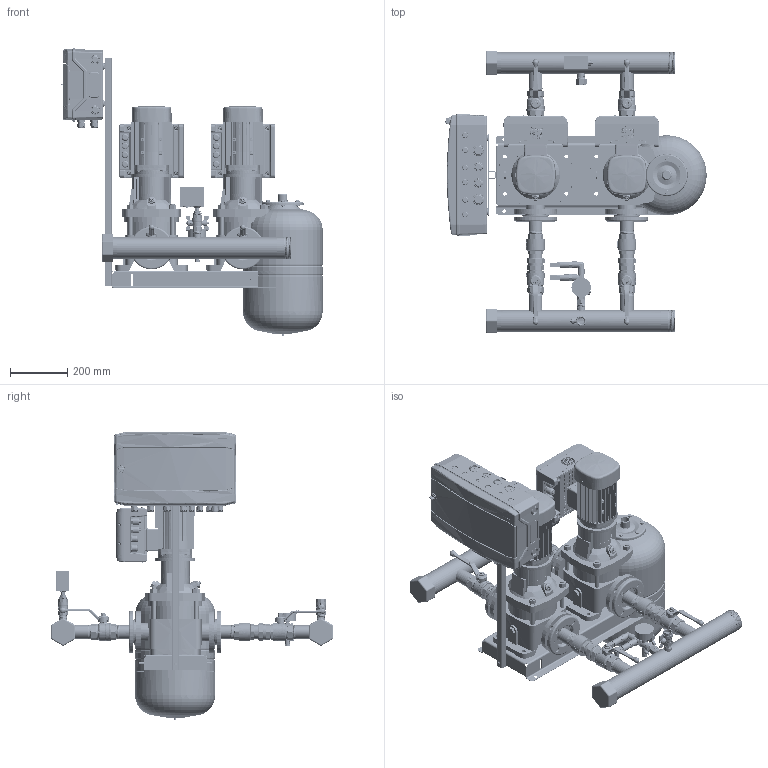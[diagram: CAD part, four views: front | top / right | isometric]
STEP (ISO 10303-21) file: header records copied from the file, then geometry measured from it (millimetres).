
FILE_DESCRIPTION(('CATIA V5 STEP Exchange','CAx-IF Rec.Pracs.--- Model Styling and Organization---1.4--- 2014-01-23','CAx-IF Rec.Pracs.---3D Tessellated Data Validation Properties---0.5---2014-09-14'),'2;1');
FILE_NAME('C:\Users\78432\YandexDisk\Drawings and 3D\3D Hydro Booster\Hydro-ME 3D\Hydro Models\Hydro ME 2 CRV10-xx\Hydro ME 2 CRVE10-2 (DIN).stp','2023-09-20T09:14:26+00:00',('none'),('none'),'CATIA Version 5-6 Release 2019 SP6','CATIA V5 STEP AP242 v1','none');
FILE_SCHEMA(('AP242_MANAGED_MODEL_BASED_3D_ENGINEERING_MIM_LF {1 0 10303 442 1 1 4}'));
Length unit declared in the file: millimetre
Products named in the file (49): Hydro ME 2 CRVE10-2 (DIN); 92051008; CRV10-2 Set (DIN); CRV 10-2_A_DIN_0.75kW; Base; Sleeve; Pumphead; Staybolt.1; Staybolt.2; Staybolt.3; Staybolt.4; Plug; AirVent; Motor; 00id2582; Adapter DN40-1,5" (96619634); 91040268; 91070086; 99110034; Hydraulica NY DN32 1,5 PN16; 92807557_9013-05; DN40_FM_LV_47.303.40; DN40_FF_LV_47.301; SAJ PDH30 0,75-2,2kW; 97941444; 405801; 405816; 91040267; 97941481; 00ID7527; Holder and CP 18mod; 92878909; Control ME (18mod); 2 sensors + manometer cpl.; manometr 16 bar; RPD-I-G1_2; 9021-01; 2070 1/2-1/2; _2020 1/2-1/2; 98594078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
Assembly tree (57 placements, depth 4):
  Hydro ME 2 CRVE10-2 (DIN)
    92051008
    CRV10-2 Set (DIN)  x2
      CRV 10-2_A_DIN_0.75kW
        Base
        Sleeve
        Pumphead
        Staybolt.1
        Staybolt.2
        Staybolt.3
        Staybolt.4
        Plug
        AirVent
        Motor
      00id2582
      Adapter DN40-1,5" (96619634)
        91040268
        91070086
        99110034
      Hydraulica NY DN32 1,5 PN16
      92807557_9013-05
      DN40_FM_LV_47.303.40
      DN40_FF_LV_47.301
      SAJ PDH30 0,75-2,2kW
    97941444  x2
      405801
      405816
      91040267
      97941481
    00ID7527  x2
    Holder and CP 18mod
      92878909
      Control ME (18mod)
    2 sensors + manometer cpl.
      manometr 16 bar
      RPD-I-G1_2  x2
      9021-01
      2070 1/2-1/2
      _2020 1/2-1/2
      98594078
    Tank 24L cpl.
      DN20_FF_BF_47.300.20
      9021-03
    Relay cpl.
      Relay RD-2R
      DN20_FF_BF_47.300.20
      2530 3/4-1/2
      _2530 1/2-1/4
    91078139
  WAV-24(D140 1'')
Bounding box: 916.82 x 989.22 x 1009.9 mm (x, y, z)
Volume: 55757959.6 mm3; surface area: 6383025.7 mm2
Topology: 222 solids, 240 shells, 24109 faces, 70478 edges, 47582 vertices
Faces by surface type: plane 9662, cylinder 6077, bspline 5878, cone 1719, torus 498, sphere 145, extrusion 130
Entity records: 658371 total; most frequent: CARTESIAN_POINT 326970, ORIENTED_EDGE 85680, EDGE_CURVE 43313, DIRECTION 38856, VERTEX_POINT 29106, B_SPLINE_CURVE_WITH_KNOTS 17597, VECTOR 17458, LINE 17393
